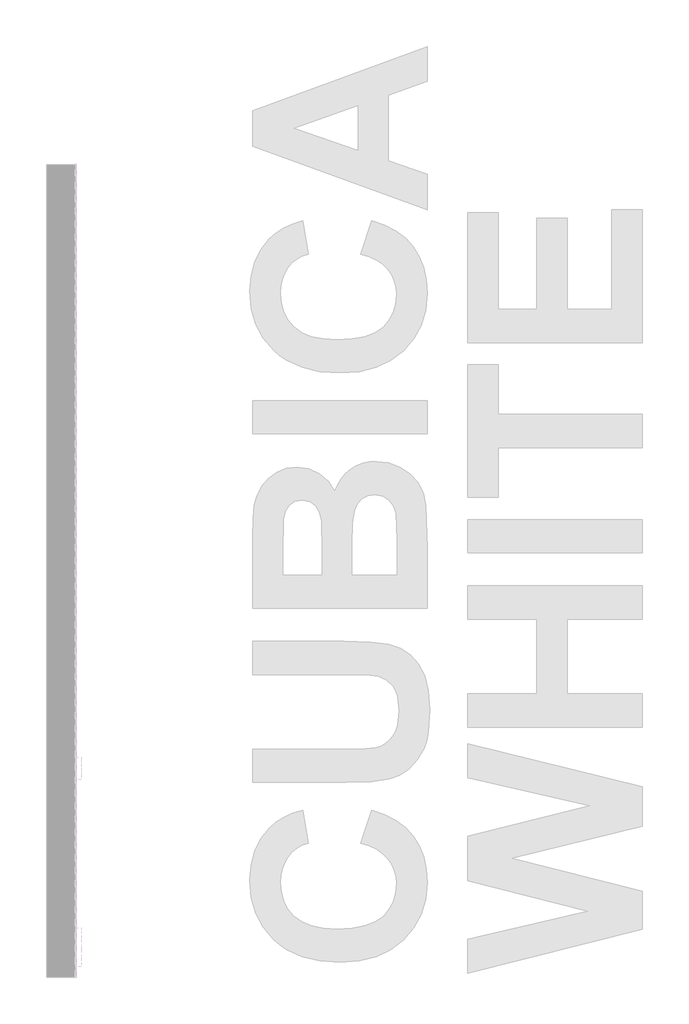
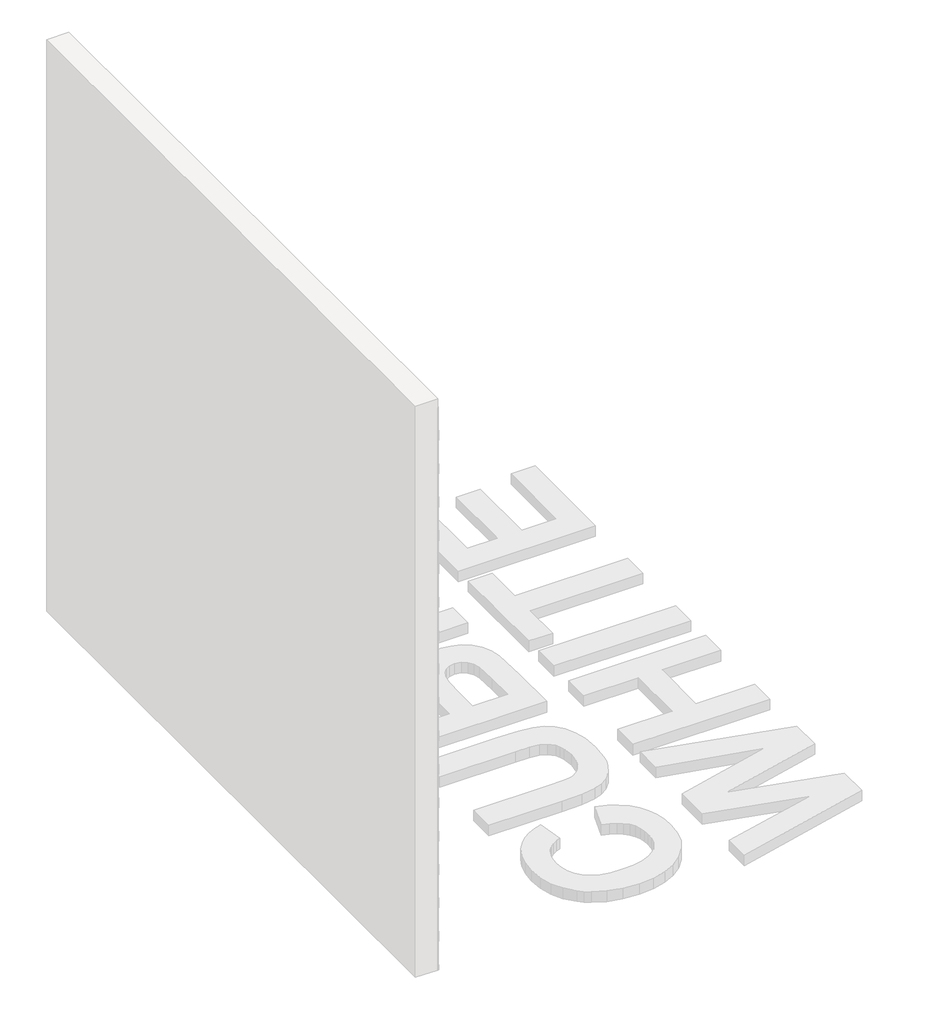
# One storey, part 114 of 121: 145 proxies.
"""IFC4 building model written with IfcOpenShell, lengths in millimetres."""

from ifc_helpers import new_model, si_unit, origin, place, context, project, spatial, transform, mapped, element, save
from components import generic_models_b2b2c5c1, generic_models_9bf73f6f, generic_models_5d175859, generic_models_0bb79e7c

model = new_model("IFC4")

# Units and contexts
model_context = context("Model", 3, world=origin())
ifc_project = project(units=[si_unit("LENGTHUNIT", "METRE", prefix="MILLI")], contexts=[model_context])

# Site, building, storey
site = spatial("IfcSite", under=ifc_project)
building = spatial("IfcBuilding", under=site)
storey = spatial("IfcBuildingStorey", under=building, Name="PORTOBELLO - SHOWROOM", Elevation=0.0)

# Proxies
placement = place(None, origin())
generic_models_shape = generic_models_b2b2c5c1(model_context)
element("IfcBuildingElementProxy", 1, Name="PBSHOP - CUBICA WHITE 4,8X8,3 : CUBICA WHITE - POSIÇÃO 01", ObjectType="PBSHOP - CUBICA WHITE 4,8X8,3 : CUBICA WHITE - POSIÇÃO 01", at=placement, inside=storey, context=model_context, shape_type="MappedRepresentation", body=[
    mapped(generic_models_shape, transform((150369.5341846, 21603.7883805, 276.2260819), x_axis=(0.0, 1.0, 0.0), y_axis=(0.0, 0.0, 1.0), z_axis=(1.0, 0.0, 0.0))),
])
element("IfcBuildingElementProxy", 2, Name="PBSHOP - CUBICA WHITE 4,8X8,3 : CUBICA WHITE - POSIÇÃO 01", ObjectType="PBSHOP - CUBICA WHITE 4,8X8,3 : CUBICA WHITE - POSIÇÃO 01", at=placement, inside=storey, context=model_context, shape_type="MappedRepresentation", body=[
    mapped(generic_models_shape, transform((150369.5341846, 21694.6276498, 276.2260819), x_axis=(0.0, 1.0, 0.0), y_axis=(0.0, 0.0, 1.0), z_axis=(1.0, 0.0, 0.0))),
])
element("IfcBuildingElementProxy", 3, Name="PBSHOP - CUBICA WHITE 4,8X8,3 : CUBICA WHITE - POSIÇÃO 01", ObjectType="PBSHOP - CUBICA WHITE 4,8X8,3 : CUBICA WHITE - POSIÇÃO 01", at=placement, inside=storey, context=model_context, shape_type="MappedRepresentation", body=[
    mapped(generic_models_shape, transform((150369.5341846, 21785.466919, 276.2260819), x_axis=(0.0, 1.0, 0.0), y_axis=(0.0, 0.0, 1.0), z_axis=(1.0, 0.0, 0.0))),
])
element("IfcBuildingElementProxy", 4, Name="PBSHOP - CUBICA WHITE 4,8X8,3 : CUBICA WHITE - POSIÇÃO 01", ObjectType="PBSHOP - CUBICA WHITE 4,8X8,3 : CUBICA WHITE - POSIÇÃO 01", at=placement, inside=storey, context=model_context, shape_type="MappedRepresentation", body=[
    mapped(generic_models_shape, transform((150369.5341846, 21876.3061883, 276.2260819), x_axis=(0.0, 1.0, 0.0), y_axis=(0.0, 0.0, 1.0), z_axis=(1.0, 0.0, 0.0))),
])
element("IfcBuildingElementProxy", 5, Name="PBSHOP - CUBICA WHITE 4,8X8,3 : CUBICA WHITE - POSIÇÃO 01", ObjectType="PBSHOP - CUBICA WHITE 4,8X8,3 : CUBICA WHITE - POSIÇÃO 01", at=placement, inside=storey, context=model_context, shape_type="MappedRepresentation", body=[
    mapped(generic_models_shape, transform((150369.5341846, 21967.1454575, 276.2260819), x_axis=(0.0, 1.0, 0.0), y_axis=(0.0, 0.0, 1.0), z_axis=(1.0, 0.0, 0.0))),
])
element("IfcBuildingElementProxy", 6, Name="PBSHOP - CUBICA WHITE 4,8X8,3 : CUBICA WHITE - POSIÇÃO 01", ObjectType="PBSHOP - CUBICA WHITE 4,8X8,3 : CUBICA WHITE - POSIÇÃO 01", at=placement, inside=storey, context=model_context, shape_type="MappedRepresentation", body=[
    mapped(generic_models_shape, transform((150369.5341846, 21013.3331304, 355.1607203), x_axis=(0.0, 1.0, 0.0), y_axis=(0.0, 0.0, 1.0), z_axis=(1.0, 0.0, 0.0))),
])
element("IfcBuildingElementProxy", 7, Name="PBSHOP - CUBICA WHITE 4,8X8,3 : CUBICA WHITE - POSIÇÃO 01", ObjectType="PBSHOP - CUBICA WHITE 4,8X8,3 : CUBICA WHITE - POSIÇÃO 01", at=placement, inside=storey, context=model_context, shape_type="MappedRepresentation", body=[
    mapped(generic_models_shape, transform((150369.5341846, 21104.1723997, 355.1607203), x_axis=(0.0, 1.0, 0.0), y_axis=(0.0, 0.0, 1.0), z_axis=(1.0, 0.0, 0.0))),
])
element("IfcBuildingElementProxy", 8, Name="PBSHOP - CUBICA WHITE 4,8X8,3 : CUBICA WHITE - POSIÇÃO 01", ObjectType="PBSHOP - CUBICA WHITE 4,8X8,3 : CUBICA WHITE - POSIÇÃO 01", at=placement, inside=storey, context=model_context, shape_type="MappedRepresentation", body=[
    mapped(generic_models_shape, transform((150369.5341846, 21195.0116689, 355.1607203), x_axis=(0.0, 1.0, 0.0), y_axis=(0.0, 0.0, 1.0), z_axis=(1.0, 0.0, 0.0))),
])
element("IfcBuildingElementProxy", 9, Name="PBSHOP - CUBICA WHITE 4,8X8,3 : CUBICA WHITE - POSIÇÃO 01", ObjectType="PBSHOP - CUBICA WHITE 4,8X8,3 : CUBICA WHITE - POSIÇÃO 01", at=placement, inside=storey, context=model_context, shape_type="MappedRepresentation", body=[
    mapped(generic_models_shape, transform((150369.5341846, 21285.8509382, 355.1607203), x_axis=(0.0, 1.0, 0.0), y_axis=(0.0, 0.0, 1.0), z_axis=(1.0, 0.0, 0.0))),
])
element("IfcBuildingElementProxy", 10, Name="PBSHOP - CUBICA WHITE 4,8X8,3 : CUBICA WHITE - POSIÇÃO 01", ObjectType="PBSHOP - CUBICA WHITE 4,8X8,3 : CUBICA WHITE - POSIÇÃO 01", at=placement, inside=storey, context=model_context, shape_type="MappedRepresentation", body=[
    mapped(generic_models_shape, transform((150369.5341846, 21376.6902074, 355.1607203), x_axis=(0.0, 1.0, 0.0), y_axis=(0.0, 0.0, 1.0), z_axis=(1.0, 0.0, 0.0))),
])
element("IfcBuildingElementProxy", 11, Name="PBSHOP - CUBICA WHITE 4,8X8,3 : CUBICA WHITE - POSIÇÃO 01", ObjectType="PBSHOP - CUBICA WHITE 4,8X8,3 : CUBICA WHITE - POSIÇÃO 01", at=placement, inside=storey, context=model_context, shape_type="MappedRepresentation", body=[
    mapped(generic_models_shape, transform((150369.5341846, 21467.5294767, 355.1607203), x_axis=(0.0, 1.0, 0.0), y_axis=(0.0, 0.0, 1.0), z_axis=(1.0, 0.0, 0.0))),
])
element("IfcBuildingElementProxy", 12, Name="PBSHOP - CUBICA WHITE 4,8X8,3 : CUBICA WHITE - POSIÇÃO 01", ObjectType="PBSHOP - CUBICA WHITE 4,8X8,3 : CUBICA WHITE - POSIÇÃO 01", at=placement, inside=storey, context=model_context, shape_type="MappedRepresentation", body=[
    mapped(generic_models_shape, transform((150369.5341846, 21558.3687459, 355.1607203), x_axis=(0.0, 1.0, 0.0), y_axis=(0.0, 0.0, 1.0), z_axis=(1.0, 0.0, 0.0))),
])
element("IfcBuildingElementProxy", 13, Name="PBSHOP - CUBICA WHITE 4,8X8,3 : CUBICA WHITE - POSIÇÃO 01", ObjectType="PBSHOP - CUBICA WHITE 4,8X8,3 : CUBICA WHITE - POSIÇÃO 01", at=placement, inside=storey, context=model_context, shape_type="MappedRepresentation", body=[
    mapped(generic_models_shape, transform((150369.5341846, 21649.2080152, 355.1607203), x_axis=(0.0, 1.0, 0.0), y_axis=(0.0, 0.0, 1.0), z_axis=(1.0, 0.0, 0.0))),
])
element("IfcBuildingElementProxy", 14, Name="PBSHOP - CUBICA WHITE 4,8X8,3 : CUBICA WHITE - POSIÇÃO 01", ObjectType="PBSHOP - CUBICA WHITE 4,8X8,3 : CUBICA WHITE - POSIÇÃO 01", at=placement, inside=storey, context=model_context, shape_type="MappedRepresentation", body=[
    mapped(generic_models_shape, transform((150369.5341846, 21740.0472844, 355.1607203), x_axis=(0.0, 1.0, 0.0), y_axis=(0.0, 0.0, 1.0), z_axis=(1.0, 0.0, 0.0))),
])
element("IfcBuildingElementProxy", 15, Name="PBSHOP - CUBICA WHITE 4,8X8,3 : CUBICA WHITE - POSIÇÃO 01", ObjectType="PBSHOP - CUBICA WHITE 4,8X8,3 : CUBICA WHITE - POSIÇÃO 01", at=placement, inside=storey, context=model_context, shape_type="MappedRepresentation", body=[
    mapped(generic_models_shape, transform((150369.5341846, 21830.8865536, 355.1607203), x_axis=(0.0, 1.0, 0.0), y_axis=(0.0, 0.0, 1.0), z_axis=(1.0, 0.0, 0.0))),
])
element("IfcBuildingElementProxy", 16, Name="PBSHOP - CUBICA WHITE 4,8X8,3 : CUBICA WHITE - POSIÇÃO 01", ObjectType="PBSHOP - CUBICA WHITE 4,8X8,3 : CUBICA WHITE - POSIÇÃO 01", at=placement, inside=storey, context=model_context, shape_type="MappedRepresentation", body=[
    mapped(generic_models_shape, transform((150369.5341846, 21921.7258229, 355.1607203), x_axis=(0.0, 1.0, 0.0), y_axis=(0.0, 0.0, 1.0), z_axis=(1.0, 0.0, 0.0))),
])
element("IfcBuildingElementProxy", 17, Name="PBSHOP - CUBICA WHITE 4,8X8,3 : CUBICA WHITE - POSIÇÃO 01", ObjectType="PBSHOP - CUBICA WHITE 4,8X8,3 : CUBICA WHITE - POSIÇÃO 01", at=placement, inside=storey, context=model_context, shape_type="MappedRepresentation", body=[
    mapped(generic_models_shape, transform((150369.5341846, 21058.7527651, 434.0953587), x_axis=(0.0, 1.0, 0.0), y_axis=(0.0, 0.0, 1.0), z_axis=(1.0, 0.0, 0.0))),
])
element("IfcBuildingElementProxy", 18, Name="PBSHOP - CUBICA WHITE 4,8X8,3 : CUBICA WHITE - POSIÇÃO 01", ObjectType="PBSHOP - CUBICA WHITE 4,8X8,3 : CUBICA WHITE - POSIÇÃO 01", at=placement, inside=storey, context=model_context, shape_type="MappedRepresentation", body=[
    mapped(generic_models_shape, transform((150369.5341846, 21149.5920343, 434.0953587), x_axis=(0.0, 1.0, 0.0), y_axis=(0.0, 0.0, 1.0), z_axis=(1.0, 0.0, 0.0))),
])
element("IfcBuildingElementProxy", 19, Name="PBSHOP - CUBICA WHITE 4,8X8,3 : CUBICA WHITE - POSIÇÃO 01", ObjectType="PBSHOP - CUBICA WHITE 4,8X8,3 : CUBICA WHITE - POSIÇÃO 01", at=placement, inside=storey, context=model_context, shape_type="MappedRepresentation", body=[
    mapped(generic_models_shape, transform((150369.5341846, 21240.4313036, 434.0953587), x_axis=(0.0, 1.0, 0.0), y_axis=(0.0, 0.0, 1.0), z_axis=(1.0, 0.0, 0.0))),
])
element("IfcBuildingElementProxy", 20, Name="PBSHOP - CUBICA WHITE 4,8X8,3 : CUBICA WHITE - POSIÇÃO 01", ObjectType="PBSHOP - CUBICA WHITE 4,8X8,3 : CUBICA WHITE - POSIÇÃO 01", at=placement, inside=storey, context=model_context, shape_type="MappedRepresentation", body=[
    mapped(generic_models_shape, transform((150369.5341846, 21331.2705728, 434.0953587), x_axis=(0.0, 1.0, 0.0), y_axis=(0.0, 0.0, 1.0), z_axis=(1.0, 0.0, 0.0))),
])
element("IfcBuildingElementProxy", 21, Name="PBSHOP - CUBICA WHITE 4,8X8,3 : CUBICA WHITE - POSIÇÃO 01", ObjectType="PBSHOP - CUBICA WHITE 4,8X8,3 : CUBICA WHITE - POSIÇÃO 01", at=placement, inside=storey, context=model_context, shape_type="MappedRepresentation", body=[
    mapped(generic_models_shape, transform((150369.5341846, 21422.109842, 434.0953587), x_axis=(0.0, 1.0, 0.0), y_axis=(0.0, 0.0, 1.0), z_axis=(1.0, 0.0, 0.0))),
])
element("IfcBuildingElementProxy", 22, Name="PBSHOP - CUBICA WHITE 4,8X8,3 : CUBICA WHITE - POSIÇÃO 01", ObjectType="PBSHOP - CUBICA WHITE 4,8X8,3 : CUBICA WHITE - POSIÇÃO 01", at=placement, inside=storey, context=model_context, shape_type="MappedRepresentation", body=[
    mapped(generic_models_shape, transform((150369.5341846, 21512.9491113, 434.0953587), x_axis=(0.0, 1.0, 0.0), y_axis=(0.0, 0.0, 1.0), z_axis=(1.0, 0.0, 0.0))),
])
element("IfcBuildingElementProxy", 23, Name="PBSHOP - CUBICA WHITE 4,8X8,3 : CUBICA WHITE - POSIÇÃO 01", ObjectType="PBSHOP - CUBICA WHITE 4,8X8,3 : CUBICA WHITE - POSIÇÃO 01", at=placement, inside=storey, context=model_context, shape_type="MappedRepresentation", body=[
    mapped(generic_models_shape, transform((150369.5341846, 21603.7883805, 434.0953587), x_axis=(0.0, 1.0, 0.0), y_axis=(0.0, 0.0, 1.0), z_axis=(1.0, 0.0, 0.0))),
])
element("IfcBuildingElementProxy", 24, Name="PBSHOP - CUBICA WHITE 4,8X8,3 : CUBICA WHITE - POSIÇÃO 01", ObjectType="PBSHOP - CUBICA WHITE 4,8X8,3 : CUBICA WHITE - POSIÇÃO 01", at=placement, inside=storey, context=model_context, shape_type="MappedRepresentation", body=[
    mapped(generic_models_shape, transform((150369.5341846, 21694.6276498, 434.0953587), x_axis=(0.0, 1.0, 0.0), y_axis=(0.0, 0.0, 1.0), z_axis=(1.0, 0.0, 0.0))),
])
element("IfcBuildingElementProxy", 25, Name="PBSHOP - CUBICA WHITE 4,8X8,3 : CUBICA WHITE - POSIÇÃO 01", ObjectType="PBSHOP - CUBICA WHITE 4,8X8,3 : CUBICA WHITE - POSIÇÃO 01", at=placement, inside=storey, context=model_context, shape_type="MappedRepresentation", body=[
    mapped(generic_models_shape, transform((150369.5341846, 21785.466919, 434.0953587), x_axis=(0.0, 1.0, 0.0), y_axis=(0.0, 0.0, 1.0), z_axis=(1.0, 0.0, 0.0))),
])
element("IfcBuildingElementProxy", 26, Name="PBSHOP - CUBICA WHITE 4,8X8,3 : CUBICA WHITE - POSIÇÃO 01", ObjectType="PBSHOP - CUBICA WHITE 4,8X8,3 : CUBICA WHITE - POSIÇÃO 01", at=placement, inside=storey, context=model_context, shape_type="MappedRepresentation", body=[
    mapped(generic_models_shape, transform((150369.5341846, 21876.3061883, 434.0953587), x_axis=(0.0, 1.0, 0.0), y_axis=(0.0, 0.0, 1.0), z_axis=(1.0, 0.0, 0.0))),
])
element("IfcBuildingElementProxy", 27, Name="PBSHOP - CUBICA WHITE 4,8X8,3 : CUBICA WHITE - POSIÇÃO 01", ObjectType="PBSHOP - CUBICA WHITE 4,8X8,3 : CUBICA WHITE - POSIÇÃO 01", at=placement, inside=storey, context=model_context, shape_type="MappedRepresentation", body=[
    mapped(generic_models_shape, transform((150369.5341846, 21967.1454575, 434.0953587), x_axis=(0.0, 1.0, 0.0), y_axis=(0.0, 0.0, 1.0), z_axis=(1.0, 0.0, 0.0))),
])
element("IfcBuildingElementProxy", 28, Name="PBSHOP - CUBICA WHITE 4,8X8,3 : CUBICA WHITE - POSIÇÃO 01", ObjectType="PBSHOP - CUBICA WHITE 4,8X8,3 : CUBICA WHITE - POSIÇÃO 01", at=placement, inside=storey, context=model_context, shape_type="MappedRepresentation", body=[
    mapped(generic_models_shape, transform((150369.5341846, 21013.3331304, 513.0299971), x_axis=(0.0, 1.0, 0.0), y_axis=(0.0, 0.0, 1.0), z_axis=(1.0, 0.0, 0.0))),
])
element("IfcBuildingElementProxy", 29, Name="PBSHOP - CUBICA WHITE 4,8X8,3 : CUBICA WHITE - POSIÇÃO 01", ObjectType="PBSHOP - CUBICA WHITE 4,8X8,3 : CUBICA WHITE - POSIÇÃO 01", at=placement, inside=storey, context=model_context, shape_type="MappedRepresentation", body=[
    mapped(generic_models_shape, transform((150369.5341846, 21104.1723997, 513.0299971), x_axis=(0.0, 1.0, 0.0), y_axis=(0.0, 0.0, 1.0), z_axis=(1.0, 0.0, 0.0))),
])
element("IfcBuildingElementProxy", 30, Name="PBSHOP - CUBICA WHITE 4,8X8,3 : CUBICA WHITE - POSIÇÃO 01", ObjectType="PBSHOP - CUBICA WHITE 4,8X8,3 : CUBICA WHITE - POSIÇÃO 01", at=placement, inside=storey, context=model_context, shape_type="MappedRepresentation", body=[
    mapped(generic_models_shape, transform((150369.5341846, 21195.0116689, 513.0299971), x_axis=(0.0, 1.0, 0.0), y_axis=(0.0, 0.0, 1.0), z_axis=(1.0, 0.0, 0.0))),
])
element("IfcBuildingElementProxy", 31, Name="PBSHOP - CUBICA WHITE 4,8X8,3 : CUBICA WHITE - POSIÇÃO 01", ObjectType="PBSHOP - CUBICA WHITE 4,8X8,3 : CUBICA WHITE - POSIÇÃO 01", at=placement, inside=storey, context=model_context, shape_type="MappedRepresentation", body=[
    mapped(generic_models_shape, transform((150369.5341846, 21285.8509382, 513.0299971), x_axis=(0.0, 1.0, 0.0), y_axis=(0.0, 0.0, 1.0), z_axis=(1.0, 0.0, 0.0))),
])
element("IfcBuildingElementProxy", 32, Name="PBSHOP - CUBICA WHITE 4,8X8,3 : CUBICA WHITE - POSIÇÃO 01", ObjectType="PBSHOP - CUBICA WHITE 4,8X8,3 : CUBICA WHITE - POSIÇÃO 01", at=placement, inside=storey, context=model_context, shape_type="MappedRepresentation", body=[
    mapped(generic_models_shape, transform((150369.5341846, 21376.6902074, 513.0299971), x_axis=(0.0, 1.0, 0.0), y_axis=(0.0, 0.0, 1.0), z_axis=(1.0, 0.0, 0.0))),
])
element("IfcBuildingElementProxy", 33, Name="PBSHOP - CUBICA WHITE 4,8X8,3 : CUBICA WHITE - POSIÇÃO 01", ObjectType="PBSHOP - CUBICA WHITE 4,8X8,3 : CUBICA WHITE - POSIÇÃO 01", at=placement, inside=storey, context=model_context, shape_type="MappedRepresentation", body=[
    mapped(generic_models_shape, transform((150369.5341846, 21467.5294767, 513.0299971), x_axis=(0.0, 1.0, 0.0), y_axis=(0.0, 0.0, 1.0), z_axis=(1.0, 0.0, 0.0))),
])
element("IfcBuildingElementProxy", 34, Name="PBSHOP - CUBICA WHITE 4,8X8,3 : CUBICA WHITE - POSIÇÃO 01", ObjectType="PBSHOP - CUBICA WHITE 4,8X8,3 : CUBICA WHITE - POSIÇÃO 01", at=placement, inside=storey, context=model_context, shape_type="MappedRepresentation", body=[
    mapped(generic_models_shape, transform((150369.5341846, 21558.3687459, 513.0299971), x_axis=(0.0, 1.0, 0.0), y_axis=(0.0, 0.0, 1.0), z_axis=(1.0, 0.0, 0.0))),
])
element("IfcBuildingElementProxy", 35, Name="PBSHOP - CUBICA WHITE 4,8X8,3 : CUBICA WHITE - POSIÇÃO 01", ObjectType="PBSHOP - CUBICA WHITE 4,8X8,3 : CUBICA WHITE - POSIÇÃO 01", at=placement, inside=storey, context=model_context, shape_type="MappedRepresentation", body=[
    mapped(generic_models_shape, transform((150369.5341846, 21649.2080152, 513.0299971), x_axis=(0.0, 1.0, 0.0), y_axis=(0.0, 0.0, 1.0), z_axis=(1.0, 0.0, 0.0))),
])
element("IfcBuildingElementProxy", 36, Name="PBSHOP - CUBICA WHITE 4,8X8,3 : CUBICA WHITE - POSIÇÃO 01", ObjectType="PBSHOP - CUBICA WHITE 4,8X8,3 : CUBICA WHITE - POSIÇÃO 01", at=placement, inside=storey, context=model_context, shape_type="MappedRepresentation", body=[
    mapped(generic_models_shape, transform((150369.5341846, 21740.0472844, 513.0299971), x_axis=(0.0, 1.0, 0.0), y_axis=(0.0, 0.0, 1.0), z_axis=(1.0, 0.0, 0.0))),
])
element("IfcBuildingElementProxy", 37, Name="PBSHOP - CUBICA WHITE 4,8X8,3 : CUBICA WHITE - POSIÇÃO 01", ObjectType="PBSHOP - CUBICA WHITE 4,8X8,3 : CUBICA WHITE - POSIÇÃO 01", at=placement, inside=storey, context=model_context, shape_type="MappedRepresentation", body=[
    mapped(generic_models_shape, transform((150369.5341846, 21830.8865536, 513.0299971), x_axis=(0.0, 1.0, 0.0), y_axis=(0.0, 0.0, 1.0), z_axis=(1.0, 0.0, 0.0))),
])
element("IfcBuildingElementProxy", 38, Name="PBSHOP - CUBICA WHITE 4,8X8,3 : CUBICA WHITE - POSIÇÃO 01", ObjectType="PBSHOP - CUBICA WHITE 4,8X8,3 : CUBICA WHITE - POSIÇÃO 01", at=placement, inside=storey, context=model_context, shape_type="MappedRepresentation", body=[
    mapped(generic_models_shape, transform((150369.5341846, 21921.7258229, 513.0299971), x_axis=(0.0, 1.0, 0.0), y_axis=(0.0, 0.0, 1.0), z_axis=(1.0, 0.0, 0.0))),
])
element("IfcBuildingElementProxy", 39, Name="PBSHOP - CUBICA WHITE 4,8X8,3 : CUBICA WHITE - POSIÇÃO 01", ObjectType="PBSHOP - CUBICA WHITE 4,8X8,3 : CUBICA WHITE - POSIÇÃO 01", at=placement, inside=storey, context=model_context, shape_type="MappedRepresentation", body=[
    mapped(generic_models_shape, transform((150369.5341846, 21058.7527651, 591.9646354), x_axis=(0.0, 1.0, 0.0), y_axis=(0.0, 0.0, 1.0), z_axis=(1.0, 0.0, 0.0))),
])
element("IfcBuildingElementProxy", 40, Name="PBSHOP - CUBICA WHITE 4,8X8,3 : CUBICA WHITE - POSIÇÃO 01", ObjectType="PBSHOP - CUBICA WHITE 4,8X8,3 : CUBICA WHITE - POSIÇÃO 01", at=placement, inside=storey, context=model_context, shape_type="MappedRepresentation", body=[
    mapped(generic_models_shape, transform((150369.5341846, 21149.5920343, 591.9646354), x_axis=(0.0, 1.0, 0.0), y_axis=(0.0, 0.0, 1.0), z_axis=(1.0, 0.0, 0.0))),
])
element("IfcBuildingElementProxy", 41, Name="PBSHOP - CUBICA WHITE 4,8X8,3 : CUBICA WHITE - POSIÇÃO 01", ObjectType="PBSHOP - CUBICA WHITE 4,8X8,3 : CUBICA WHITE - POSIÇÃO 01", at=placement, inside=storey, context=model_context, shape_type="MappedRepresentation", body=[
    mapped(generic_models_shape, transform((150369.5341846, 21240.4313036, 591.9646354), x_axis=(0.0, 1.0, 0.0), y_axis=(0.0, 0.0, 1.0), z_axis=(1.0, 0.0, 0.0))),
])
element("IfcBuildingElementProxy", 42, Name="PBSHOP - CUBICA WHITE 4,8X8,3 : CUBICA WHITE - POSIÇÃO 01", ObjectType="PBSHOP - CUBICA WHITE 4,8X8,3 : CUBICA WHITE - POSIÇÃO 01", at=placement, inside=storey, context=model_context, shape_type="MappedRepresentation", body=[
    mapped(generic_models_shape, transform((150369.5341846, 21331.2705728, 591.9646354), x_axis=(0.0, 1.0, 0.0), y_axis=(0.0, 0.0, 1.0), z_axis=(1.0, 0.0, 0.0))),
])
element("IfcBuildingElementProxy", 43, Name="PBSHOP - CUBICA WHITE 4,8X8,3 : CUBICA WHITE - POSIÇÃO 01", ObjectType="PBSHOP - CUBICA WHITE 4,8X8,3 : CUBICA WHITE - POSIÇÃO 01", at=placement, inside=storey, context=model_context, shape_type="MappedRepresentation", body=[
    mapped(generic_models_shape, transform((150369.5341846, 21422.109842, 591.9646354), x_axis=(0.0, 1.0, 0.0), y_axis=(0.0, 0.0, 1.0), z_axis=(1.0, 0.0, 0.0))),
])
element("IfcBuildingElementProxy", 44, Name="PBSHOP - CUBICA WHITE 4,8X8,3 : CUBICA WHITE - POSIÇÃO 01", ObjectType="PBSHOP - CUBICA WHITE 4,8X8,3 : CUBICA WHITE - POSIÇÃO 01", at=placement, inside=storey, context=model_context, shape_type="MappedRepresentation", body=[
    mapped(generic_models_shape, transform((150369.5341846, 21512.9491113, 591.9646354), x_axis=(0.0, 1.0, 0.0), y_axis=(0.0, 0.0, 1.0), z_axis=(1.0, 0.0, 0.0))),
])
element("IfcBuildingElementProxy", 45, Name="PBSHOP - CUBICA WHITE 4,8X8,3 : CUBICA WHITE - POSIÇÃO 01", ObjectType="PBSHOP - CUBICA WHITE 4,8X8,3 : CUBICA WHITE - POSIÇÃO 01", at=placement, inside=storey, context=model_context, shape_type="MappedRepresentation", body=[
    mapped(generic_models_shape, transform((150369.5341846, 21603.7883805, 591.9646354), x_axis=(0.0, 1.0, 0.0), y_axis=(0.0, 0.0, 1.0), z_axis=(1.0, 0.0, 0.0))),
])
element("IfcBuildingElementProxy", 46, Name="PBSHOP - CUBICA WHITE 4,8X8,3 : CUBICA WHITE - POSIÇÃO 01", ObjectType="PBSHOP - CUBICA WHITE 4,8X8,3 : CUBICA WHITE - POSIÇÃO 01", at=placement, inside=storey, context=model_context, shape_type="MappedRepresentation", body=[
    mapped(generic_models_shape, transform((150369.5341846, 21694.6276498, 591.9646354), x_axis=(0.0, 1.0, 0.0), y_axis=(0.0, 0.0, 1.0), z_axis=(1.0, 0.0, 0.0))),
])
element("IfcBuildingElementProxy", 47, Name="PBSHOP - CUBICA WHITE 4,8X8,3 : CUBICA WHITE - POSIÇÃO 01", ObjectType="PBSHOP - CUBICA WHITE 4,8X8,3 : CUBICA WHITE - POSIÇÃO 01", at=placement, inside=storey, context=model_context, shape_type="MappedRepresentation", body=[
    mapped(generic_models_shape, transform((150369.5341846, 21785.466919, 591.9646354), x_axis=(0.0, 1.0, 0.0), y_axis=(0.0, 0.0, 1.0), z_axis=(1.0, 0.0, 0.0))),
])
element("IfcBuildingElementProxy", 48, Name="PBSHOP - CUBICA WHITE 4,8X8,3 : CUBICA WHITE - POSIÇÃO 01", ObjectType="PBSHOP - CUBICA WHITE 4,8X8,3 : CUBICA WHITE - POSIÇÃO 01", at=placement, inside=storey, context=model_context, shape_type="MappedRepresentation", body=[
    mapped(generic_models_shape, transform((150369.5341846, 21876.3061883, 591.9646354), x_axis=(0.0, 1.0, 0.0), y_axis=(0.0, 0.0, 1.0), z_axis=(1.0, 0.0, 0.0))),
])
element("IfcBuildingElementProxy", 49, Name="PBSHOP - CUBICA WHITE 4,8X8,3 : CUBICA WHITE - POSIÇÃO 01", ObjectType="PBSHOP - CUBICA WHITE 4,8X8,3 : CUBICA WHITE - POSIÇÃO 01", at=placement, inside=storey, context=model_context, shape_type="MappedRepresentation", body=[
    mapped(generic_models_shape, transform((150369.5341846, 21967.1454575, 591.9646354), x_axis=(0.0, 1.0, 0.0), y_axis=(0.0, 0.0, 1.0), z_axis=(1.0, 0.0, 0.0))),
])
generic_models_2_shape = generic_models_9bf73f6f(model_context)
element("IfcBuildingElementProxy", 50, Name="PBSHOP - CUBICA WHITE 4,8X8,3 : CUBICA WHITE - POSIÇÃO 03", ObjectType="PBSHOP - CUBICA WHITE 4,8X8,3 : CUBICA WHITE - POSIÇÃO 03", at=placement, inside=storey, context=model_context, shape_type="MappedRepresentation", body=[
    mapped(generic_models_2_shape, transform((150369.5341846, 21036.0451069, 236.7175523), x_axis=(0.0, 1.0, 0.0), y_axis=(0.0, 0.0, 1.0), z_axis=(1.0, 0.0, 0.0))),
])
element("IfcBuildingElementProxy", 51, Name="PBSHOP - CUBICA WHITE 4,8X8,3 : CUBICA WHITE - POSIÇÃO 03", ObjectType="PBSHOP - CUBICA WHITE 4,8X8,3 : CUBICA WHITE - POSIÇÃO 03", at=placement, inside=storey, context=model_context, shape_type="MappedRepresentation", body=[
    mapped(generic_models_2_shape, transform((150369.5341846, 21126.8843762, 236.7175523), x_axis=(0.0, 1.0, 0.0), y_axis=(0.0, 0.0, 1.0), z_axis=(1.0, 0.0, 0.0))),
])
element("IfcBuildingElementProxy", 52, Name="PBSHOP - CUBICA WHITE 4,8X8,3 : CUBICA WHITE - POSIÇÃO 03", ObjectType="PBSHOP - CUBICA WHITE 4,8X8,3 : CUBICA WHITE - POSIÇÃO 03", at=placement, inside=storey, context=model_context, shape_type="MappedRepresentation", body=[
    mapped(generic_models_2_shape, transform((150369.5341846, 21217.7236454, 236.7175523), x_axis=(0.0, 1.0, 0.0), y_axis=(0.0, 0.0, 1.0), z_axis=(1.0, 0.0, 0.0))),
])
element("IfcBuildingElementProxy", 53, Name="PBSHOP - CUBICA WHITE 4,8X8,3 : CUBICA WHITE - POSIÇÃO 03", ObjectType="PBSHOP - CUBICA WHITE 4,8X8,3 : CUBICA WHITE - POSIÇÃO 03", at=placement, inside=storey, context=model_context, shape_type="MappedRepresentation", body=[
    mapped(generic_models_2_shape, transform((150369.5341846, 21308.5629147, 236.7175523), x_axis=(0.0, 1.0, 0.0), y_axis=(0.0, 0.0, 1.0), z_axis=(1.0, 0.0, 0.0))),
])
element("IfcBuildingElementProxy", 54, Name="PBSHOP - CUBICA WHITE 4,8X8,3 : CUBICA WHITE - POSIÇÃO 03", ObjectType="PBSHOP - CUBICA WHITE 4,8X8,3 : CUBICA WHITE - POSIÇÃO 03", at=placement, inside=storey, context=model_context, shape_type="MappedRepresentation", body=[
    mapped(generic_models_2_shape, transform((150369.5341846, 21399.4021839, 236.7175523), x_axis=(0.0, 1.0, 0.0), y_axis=(0.0, 0.0, 1.0), z_axis=(1.0, 0.0, 0.0))),
])
element("IfcBuildingElementProxy", 55, Name="PBSHOP - CUBICA WHITE 4,8X8,3 : CUBICA WHITE - POSIÇÃO 03", ObjectType="PBSHOP - CUBICA WHITE 4,8X8,3 : CUBICA WHITE - POSIÇÃO 03", at=placement, inside=storey, context=model_context, shape_type="MappedRepresentation", body=[
    mapped(generic_models_2_shape, transform((150369.5341846, 21490.2414531, 236.7175523), x_axis=(0.0, 1.0, 0.0), y_axis=(0.0, 0.0, 1.0), z_axis=(1.0, 0.0, 0.0))),
])
element("IfcBuildingElementProxy", 56, Name="PBSHOP - CUBICA WHITE 4,8X8,3 : CUBICA WHITE - POSIÇÃO 03", ObjectType="PBSHOP - CUBICA WHITE 4,8X8,3 : CUBICA WHITE - POSIÇÃO 03", at=placement, inside=storey, context=model_context, shape_type="MappedRepresentation", body=[
    mapped(generic_models_2_shape, transform((150369.5341846, 21581.0807224, 236.7175523), x_axis=(0.0, 1.0, 0.0), y_axis=(0.0, 0.0, 1.0), z_axis=(1.0, 0.0, 0.0))),
])
element("IfcBuildingElementProxy", 57, Name="PBSHOP - CUBICA WHITE 4,8X8,3 : CUBICA WHITE - POSIÇÃO 03", ObjectType="PBSHOP - CUBICA WHITE 4,8X8,3 : CUBICA WHITE - POSIÇÃO 03", at=placement, inside=storey, context=model_context, shape_type="MappedRepresentation", body=[
    mapped(generic_models_2_shape, transform((150369.5341846, 21671.9199916, 236.7175523), x_axis=(0.0, 1.0, 0.0), y_axis=(0.0, 0.0, 1.0), z_axis=(1.0, 0.0, 0.0))),
])
element("IfcBuildingElementProxy", 58, Name="PBSHOP - CUBICA WHITE 4,8X8,3 : CUBICA WHITE - POSIÇÃO 03", ObjectType="PBSHOP - CUBICA WHITE 4,8X8,3 : CUBICA WHITE - POSIÇÃO 03", at=placement, inside=storey, context=model_context, shape_type="MappedRepresentation", body=[
    mapped(generic_models_2_shape, transform((150369.5341846, 21762.7592609, 236.7175523), x_axis=(0.0, 1.0, 0.0), y_axis=(0.0, 0.0, 1.0), z_axis=(1.0, 0.0, 0.0))),
])
element("IfcBuildingElementProxy", 59, Name="PBSHOP - CUBICA WHITE 4,8X8,3 : CUBICA WHITE - POSIÇÃO 03", ObjectType="PBSHOP - CUBICA WHITE 4,8X8,3 : CUBICA WHITE - POSIÇÃO 03", at=placement, inside=storey, context=model_context, shape_type="MappedRepresentation", body=[
    mapped(generic_models_2_shape, transform((150369.5341846, 21853.5985301, 236.7175523), x_axis=(0.0, 1.0, 0.0), y_axis=(0.0, 0.0, 1.0), z_axis=(1.0, 0.0, 0.0))),
])
element("IfcBuildingElementProxy", 60, Name="PBSHOP - CUBICA WHITE 4,8X8,3 : CUBICA WHITE - POSIÇÃO 03", ObjectType="PBSHOP - CUBICA WHITE 4,8X8,3 : CUBICA WHITE - POSIÇÃO 03", at=placement, inside=storey, context=model_context, shape_type="MappedRepresentation", body=[
    mapped(generic_models_2_shape, transform((150369.5341846, 21944.4377994, 236.7175523), x_axis=(0.0, 1.0, 0.0), y_axis=(0.0, 0.0, 1.0), z_axis=(1.0, 0.0, 0.0))),
])
element("IfcBuildingElementProxy", 61, Name="PBSHOP - CUBICA WHITE 4,8X8,3 : CUBICA WHITE - POSIÇÃO 03", ObjectType="PBSHOP - CUBICA WHITE 4,8X8,3 : CUBICA WHITE - POSIÇÃO 03", at=placement, inside=storey, context=model_context, shape_type="MappedRepresentation", body=[
    mapped(generic_models_2_shape, transform((150369.5341846, 21081.4647415, 315.6521907), x_axis=(0.0, 1.0, 0.0), y_axis=(0.0, 0.0, 1.0), z_axis=(1.0, 0.0, 0.0))),
])
element("IfcBuildingElementProxy", 62, Name="PBSHOP - CUBICA WHITE 4,8X8,3 : CUBICA WHITE - POSIÇÃO 03", ObjectType="PBSHOP - CUBICA WHITE 4,8X8,3 : CUBICA WHITE - POSIÇÃO 03", at=placement, inside=storey, context=model_context, shape_type="MappedRepresentation", body=[
    mapped(generic_models_2_shape, transform((150369.5341846, 21172.3040108, 315.6521907), x_axis=(0.0, 1.0, 0.0), y_axis=(0.0, 0.0, 1.0), z_axis=(1.0, 0.0, 0.0))),
])
element("IfcBuildingElementProxy", 63, Name="PBSHOP - CUBICA WHITE 4,8X8,3 : CUBICA WHITE - POSIÇÃO 03", ObjectType="PBSHOP - CUBICA WHITE 4,8X8,3 : CUBICA WHITE - POSIÇÃO 03", at=placement, inside=storey, context=model_context, shape_type="MappedRepresentation", body=[
    mapped(generic_models_2_shape, transform((150369.5341846, 21263.14328, 315.6521907), x_axis=(0.0, 1.0, 0.0), y_axis=(0.0, 0.0, 1.0), z_axis=(1.0, 0.0, 0.0))),
])
element("IfcBuildingElementProxy", 64, Name="PBSHOP - CUBICA WHITE 4,8X8,3 : CUBICA WHITE - POSIÇÃO 03", ObjectType="PBSHOP - CUBICA WHITE 4,8X8,3 : CUBICA WHITE - POSIÇÃO 03", at=placement, inside=storey, context=model_context, shape_type="MappedRepresentation", body=[
    mapped(generic_models_2_shape, transform((150369.5341846, 21353.9825493, 315.6521907), x_axis=(0.0, 1.0, 0.0), y_axis=(0.0, 0.0, 1.0), z_axis=(1.0, 0.0, 0.0))),
])
element("IfcBuildingElementProxy", 65, Name="PBSHOP - CUBICA WHITE 4,8X8,3 : CUBICA WHITE - POSIÇÃO 03", ObjectType="PBSHOP - CUBICA WHITE 4,8X8,3 : CUBICA WHITE - POSIÇÃO 03", at=placement, inside=storey, context=model_context, shape_type="MappedRepresentation", body=[
    mapped(generic_models_2_shape, transform((150369.5341846, 21444.8218185, 315.6521907), x_axis=(0.0, 1.0, 0.0), y_axis=(0.0, 0.0, 1.0), z_axis=(1.0, 0.0, 0.0))),
])
element("IfcBuildingElementProxy", 66, Name="PBSHOP - CUBICA WHITE 4,8X8,3 : CUBICA WHITE - POSIÇÃO 03", ObjectType="PBSHOP - CUBICA WHITE 4,8X8,3 : CUBICA WHITE - POSIÇÃO 03", at=placement, inside=storey, context=model_context, shape_type="MappedRepresentation", body=[
    mapped(generic_models_2_shape, transform((150369.5341846, 21535.6610878, 315.6521907), x_axis=(0.0, 1.0, 0.0), y_axis=(0.0, 0.0, 1.0), z_axis=(1.0, 0.0, 0.0))),
])
element("IfcBuildingElementProxy", 67, Name="PBSHOP - CUBICA WHITE 4,8X8,3 : CUBICA WHITE - POSIÇÃO 03", ObjectType="PBSHOP - CUBICA WHITE 4,8X8,3 : CUBICA WHITE - POSIÇÃO 03", at=placement, inside=storey, context=model_context, shape_type="MappedRepresentation", body=[
    mapped(generic_models_2_shape, transform((150369.5341846, 21626.500357, 315.6521907), x_axis=(0.0, 1.0, 0.0), y_axis=(0.0, 0.0, 1.0), z_axis=(1.0, 0.0, 0.0))),
])
element("IfcBuildingElementProxy", 68, Name="PBSHOP - CUBICA WHITE 4,8X8,3 : CUBICA WHITE - POSIÇÃO 03", ObjectType="PBSHOP - CUBICA WHITE 4,8X8,3 : CUBICA WHITE - POSIÇÃO 03", at=placement, inside=storey, context=model_context, shape_type="MappedRepresentation", body=[
    mapped(generic_models_2_shape, transform((150369.5341846, 21717.3396263, 315.6521907), x_axis=(0.0, 1.0, 0.0), y_axis=(0.0, 0.0, 1.0), z_axis=(1.0, 0.0, 0.0))),
])
element("IfcBuildingElementProxy", 69, Name="PBSHOP - CUBICA WHITE 4,8X8,3 : CUBICA WHITE - POSIÇÃO 03", ObjectType="PBSHOP - CUBICA WHITE 4,8X8,3 : CUBICA WHITE - POSIÇÃO 03", at=placement, inside=storey, context=model_context, shape_type="MappedRepresentation", body=[
    mapped(generic_models_2_shape, transform((150369.5341846, 21808.1788955, 315.6521907), x_axis=(0.0, 1.0, 0.0), y_axis=(0.0, 0.0, 1.0), z_axis=(1.0, 0.0, 0.0))),
])
element("IfcBuildingElementProxy", 70, Name="PBSHOP - CUBICA WHITE 4,8X8,3 : CUBICA WHITE - POSIÇÃO 03", ObjectType="PBSHOP - CUBICA WHITE 4,8X8,3 : CUBICA WHITE - POSIÇÃO 03", at=placement, inside=storey, context=model_context, shape_type="MappedRepresentation", body=[
    mapped(generic_models_2_shape, transform((150369.5341846, 21899.0181647, 315.6521907), x_axis=(0.0, 1.0, 0.0), y_axis=(0.0, 0.0, 1.0), z_axis=(1.0, 0.0, 0.0))),
])
element("IfcBuildingElementProxy", 71, Name="PBSHOP - CUBICA WHITE 4,8X8,3 : CUBICA WHITE - POSIÇÃO 03", ObjectType="PBSHOP - CUBICA WHITE 4,8X8,3 : CUBICA WHITE - POSIÇÃO 03", at=placement, inside=storey, context=model_context, shape_type="MappedRepresentation", body=[
    mapped(generic_models_2_shape, transform((150369.5341846, 21036.0451069, 394.5868291), x_axis=(0.0, 1.0, 0.0), y_axis=(0.0, 0.0, 1.0), z_axis=(1.0, 0.0, 0.0))),
])
element("IfcBuildingElementProxy", 72, Name="PBSHOP - CUBICA WHITE 4,8X8,3 : CUBICA WHITE - POSIÇÃO 03", ObjectType="PBSHOP - CUBICA WHITE 4,8X8,3 : CUBICA WHITE - POSIÇÃO 03", at=placement, inside=storey, context=model_context, shape_type="MappedRepresentation", body=[
    mapped(generic_models_2_shape, transform((150369.5341846, 21126.8843762, 394.5868291), x_axis=(0.0, 1.0, 0.0), y_axis=(0.0, 0.0, 1.0), z_axis=(1.0, 0.0, 0.0))),
])
element("IfcBuildingElementProxy", 73, Name="PBSHOP - CUBICA WHITE 4,8X8,3 : CUBICA WHITE - POSIÇÃO 03", ObjectType="PBSHOP - CUBICA WHITE 4,8X8,3 : CUBICA WHITE - POSIÇÃO 03", at=placement, inside=storey, context=model_context, shape_type="MappedRepresentation", body=[
    mapped(generic_models_2_shape, transform((150369.5341846, 21217.7236454, 394.5868291), x_axis=(0.0, 1.0, 0.0), y_axis=(0.0, 0.0, 1.0), z_axis=(1.0, 0.0, 0.0))),
])
element("IfcBuildingElementProxy", 74, Name="PBSHOP - CUBICA WHITE 4,8X8,3 : CUBICA WHITE - POSIÇÃO 03", ObjectType="PBSHOP - CUBICA WHITE 4,8X8,3 : CUBICA WHITE - POSIÇÃO 03", at=placement, inside=storey, context=model_context, shape_type="MappedRepresentation", body=[
    mapped(generic_models_2_shape, transform((150369.5341846, 21308.5629147, 394.5868291), x_axis=(0.0, 1.0, 0.0), y_axis=(0.0, 0.0, 1.0), z_axis=(1.0, 0.0, 0.0))),
])
element("IfcBuildingElementProxy", 75, Name="PBSHOP - CUBICA WHITE 4,8X8,3 : CUBICA WHITE - POSIÇÃO 03", ObjectType="PBSHOP - CUBICA WHITE 4,8X8,3 : CUBICA WHITE - POSIÇÃO 03", at=placement, inside=storey, context=model_context, shape_type="MappedRepresentation", body=[
    mapped(generic_models_2_shape, transform((150369.5341846, 21399.4021839, 394.5868291), x_axis=(0.0, 1.0, 0.0), y_axis=(0.0, 0.0, 1.0), z_axis=(1.0, 0.0, 0.0))),
])
element("IfcBuildingElementProxy", 76, Name="PBSHOP - CUBICA WHITE 4,8X8,3 : CUBICA WHITE - POSIÇÃO 03", ObjectType="PBSHOP - CUBICA WHITE 4,8X8,3 : CUBICA WHITE - POSIÇÃO 03", at=placement, inside=storey, context=model_context, shape_type="MappedRepresentation", body=[
    mapped(generic_models_2_shape, transform((150369.5341846, 21490.2414531, 394.5868291), x_axis=(0.0, 1.0, 0.0), y_axis=(0.0, 0.0, 1.0), z_axis=(1.0, 0.0, 0.0))),
])
element("IfcBuildingElementProxy", 77, Name="PBSHOP - CUBICA WHITE 4,8X8,3 : CUBICA WHITE - POSIÇÃO 03", ObjectType="PBSHOP - CUBICA WHITE 4,8X8,3 : CUBICA WHITE - POSIÇÃO 03", at=placement, inside=storey, context=model_context, shape_type="MappedRepresentation", body=[
    mapped(generic_models_2_shape, transform((150369.5341846, 21581.0807224, 394.5868291), x_axis=(0.0, 1.0, 0.0), y_axis=(0.0, 0.0, 1.0), z_axis=(1.0, 0.0, 0.0))),
])
element("IfcBuildingElementProxy", 78, Name="PBSHOP - CUBICA WHITE 4,8X8,3 : CUBICA WHITE - POSIÇÃO 03", ObjectType="PBSHOP - CUBICA WHITE 4,8X8,3 : CUBICA WHITE - POSIÇÃO 03", at=placement, inside=storey, context=model_context, shape_type="MappedRepresentation", body=[
    mapped(generic_models_2_shape, transform((150369.5341846, 21671.9199916, 394.5868291), x_axis=(0.0, 1.0, 0.0), y_axis=(0.0, 0.0, 1.0), z_axis=(1.0, 0.0, 0.0))),
])
element("IfcBuildingElementProxy", 79, Name="PBSHOP - CUBICA WHITE 4,8X8,3 : CUBICA WHITE - POSIÇÃO 03", ObjectType="PBSHOP - CUBICA WHITE 4,8X8,3 : CUBICA WHITE - POSIÇÃO 03", at=placement, inside=storey, context=model_context, shape_type="MappedRepresentation", body=[
    mapped(generic_models_2_shape, transform((150369.5341846, 21762.7592609, 394.5868291), x_axis=(0.0, 1.0, 0.0), y_axis=(0.0, 0.0, 1.0), z_axis=(1.0, 0.0, 0.0))),
])
element("IfcBuildingElementProxy", 80, Name="PBSHOP - CUBICA WHITE 4,8X8,3 : CUBICA WHITE - POSIÇÃO 03", ObjectType="PBSHOP - CUBICA WHITE 4,8X8,3 : CUBICA WHITE - POSIÇÃO 03", at=placement, inside=storey, context=model_context, shape_type="MappedRepresentation", body=[
    mapped(generic_models_2_shape, transform((150369.5341846, 21853.5985301, 394.5868291), x_axis=(0.0, 1.0, 0.0), y_axis=(0.0, 0.0, 1.0), z_axis=(1.0, 0.0, 0.0))),
])
element("IfcBuildingElementProxy", 81, Name="PBSHOP - CUBICA WHITE 4,8X8,3 : CUBICA WHITE - POSIÇÃO 03", ObjectType="PBSHOP - CUBICA WHITE 4,8X8,3 : CUBICA WHITE - POSIÇÃO 03", at=placement, inside=storey, context=model_context, shape_type="MappedRepresentation", body=[
    mapped(generic_models_2_shape, transform((150369.5341846, 21944.4377994, 394.5868291), x_axis=(0.0, 1.0, 0.0), y_axis=(0.0, 0.0, 1.0), z_axis=(1.0, 0.0, 0.0))),
])
element("IfcBuildingElementProxy", 82, Name="PBSHOP - CUBICA WHITE 4,8X8,3 : CUBICA WHITE - POSIÇÃO 03", ObjectType="PBSHOP - CUBICA WHITE 4,8X8,3 : CUBICA WHITE - POSIÇÃO 03", at=placement, inside=storey, context=model_context, shape_type="MappedRepresentation", body=[
    mapped(generic_models_2_shape, transform((150369.5341846, 21081.4647415, 473.5214674), x_axis=(0.0, 1.0, 0.0), y_axis=(0.0, 0.0, 1.0), z_axis=(1.0, 0.0, 0.0))),
])
element("IfcBuildingElementProxy", 83, Name="PBSHOP - CUBICA WHITE 4,8X8,3 : CUBICA WHITE - POSIÇÃO 03", ObjectType="PBSHOP - CUBICA WHITE 4,8X8,3 : CUBICA WHITE - POSIÇÃO 03", at=placement, inside=storey, context=model_context, shape_type="MappedRepresentation", body=[
    mapped(generic_models_2_shape, transform((150369.5341846, 21172.3040108, 473.5214674), x_axis=(0.0, 1.0, 0.0), y_axis=(0.0, 0.0, 1.0), z_axis=(1.0, 0.0, 0.0))),
])
element("IfcBuildingElementProxy", 84, Name="PBSHOP - CUBICA WHITE 4,8X8,3 : CUBICA WHITE - POSIÇÃO 03", ObjectType="PBSHOP - CUBICA WHITE 4,8X8,3 : CUBICA WHITE - POSIÇÃO 03", at=placement, inside=storey, context=model_context, shape_type="MappedRepresentation", body=[
    mapped(generic_models_2_shape, transform((150369.5341846, 21263.14328, 473.5214674), x_axis=(0.0, 1.0, 0.0), y_axis=(0.0, 0.0, 1.0), z_axis=(1.0, 0.0, 0.0))),
])
element("IfcBuildingElementProxy", 85, Name="PBSHOP - CUBICA WHITE 4,8X8,3 : CUBICA WHITE - POSIÇÃO 03", ObjectType="PBSHOP - CUBICA WHITE 4,8X8,3 : CUBICA WHITE - POSIÇÃO 03", at=placement, inside=storey, context=model_context, shape_type="MappedRepresentation", body=[
    mapped(generic_models_2_shape, transform((150369.5341846, 21353.9825493, 473.5214674), x_axis=(0.0, 1.0, 0.0), y_axis=(0.0, 0.0, 1.0), z_axis=(1.0, 0.0, 0.0))),
])
element("IfcBuildingElementProxy", 86, Name="PBSHOP - CUBICA WHITE 4,8X8,3 : CUBICA WHITE - POSIÇÃO 03", ObjectType="PBSHOP - CUBICA WHITE 4,8X8,3 : CUBICA WHITE - POSIÇÃO 03", at=placement, inside=storey, context=model_context, shape_type="MappedRepresentation", body=[
    mapped(generic_models_2_shape, transform((150369.5341846, 21444.8218185, 473.5214674), x_axis=(0.0, 1.0, 0.0), y_axis=(0.0, 0.0, 1.0), z_axis=(1.0, 0.0, 0.0))),
])
element("IfcBuildingElementProxy", 87, Name="PBSHOP - CUBICA WHITE 4,8X8,3 : CUBICA WHITE - POSIÇÃO 03", ObjectType="PBSHOP - CUBICA WHITE 4,8X8,3 : CUBICA WHITE - POSIÇÃO 03", at=placement, inside=storey, context=model_context, shape_type="MappedRepresentation", body=[
    mapped(generic_models_2_shape, transform((150369.5341846, 21535.6610878, 473.5214674), x_axis=(0.0, 1.0, 0.0), y_axis=(0.0, 0.0, 1.0), z_axis=(1.0, 0.0, 0.0))),
])
element("IfcBuildingElementProxy", 88, Name="PBSHOP - CUBICA WHITE 4,8X8,3 : CUBICA WHITE - POSIÇÃO 03", ObjectType="PBSHOP - CUBICA WHITE 4,8X8,3 : CUBICA WHITE - POSIÇÃO 03", at=placement, inside=storey, context=model_context, shape_type="MappedRepresentation", body=[
    mapped(generic_models_2_shape, transform((150369.5341846, 21626.500357, 473.5214674), x_axis=(0.0, 1.0, 0.0), y_axis=(0.0, 0.0, 1.0), z_axis=(1.0, 0.0, 0.0))),
])
element("IfcBuildingElementProxy", 89, Name="PBSHOP - CUBICA WHITE 4,8X8,3 : CUBICA WHITE - POSIÇÃO 03", ObjectType="PBSHOP - CUBICA WHITE 4,8X8,3 : CUBICA WHITE - POSIÇÃO 03", at=placement, inside=storey, context=model_context, shape_type="MappedRepresentation", body=[
    mapped(generic_models_2_shape, transform((150369.5341846, 21717.3396263, 473.5214674), x_axis=(0.0, 1.0, 0.0), y_axis=(0.0, 0.0, 1.0), z_axis=(1.0, 0.0, 0.0))),
])
element("IfcBuildingElementProxy", 90, Name="PBSHOP - CUBICA WHITE 4,8X8,3 : CUBICA WHITE - POSIÇÃO 03", ObjectType="PBSHOP - CUBICA WHITE 4,8X8,3 : CUBICA WHITE - POSIÇÃO 03", at=placement, inside=storey, context=model_context, shape_type="MappedRepresentation", body=[
    mapped(generic_models_2_shape, transform((150369.5341846, 21808.1788955, 473.5214674), x_axis=(0.0, 1.0, 0.0), y_axis=(0.0, 0.0, 1.0), z_axis=(1.0, 0.0, 0.0))),
])
element("IfcBuildingElementProxy", 91, Name="PBSHOP - CUBICA WHITE 4,8X8,3 : CUBICA WHITE - POSIÇÃO 03", ObjectType="PBSHOP - CUBICA WHITE 4,8X8,3 : CUBICA WHITE - POSIÇÃO 03", at=placement, inside=storey, context=model_context, shape_type="MappedRepresentation", body=[
    mapped(generic_models_2_shape, transform((150369.5341846, 21899.0181647, 473.5214674), x_axis=(0.0, 1.0, 0.0), y_axis=(0.0, 0.0, 1.0), z_axis=(1.0, 0.0, 0.0))),
])
element("IfcBuildingElementProxy", 92, Name="PBSHOP - CUBICA WHITE 4,8X8,3 : CUBICA WHITE - POSIÇÃO 03", ObjectType="PBSHOP - CUBICA WHITE 4,8X8,3 : CUBICA WHITE - POSIÇÃO 03", at=placement, inside=storey, context=model_context, shape_type="MappedRepresentation", body=[
    mapped(generic_models_2_shape, transform((150369.5341846, 21036.0451069, 552.4561058), x_axis=(0.0, 1.0, 0.0), y_axis=(0.0, 0.0, 1.0), z_axis=(1.0, 0.0, 0.0))),
])
element("IfcBuildingElementProxy", 93, Name="PBSHOP - CUBICA WHITE 4,8X8,3 : CUBICA WHITE - POSIÇÃO 03", ObjectType="PBSHOP - CUBICA WHITE 4,8X8,3 : CUBICA WHITE - POSIÇÃO 03", at=placement, inside=storey, context=model_context, shape_type="MappedRepresentation", body=[
    mapped(generic_models_2_shape, transform((150369.5341846, 21126.8843762, 552.4561058), x_axis=(0.0, 1.0, 0.0), y_axis=(0.0, 0.0, 1.0), z_axis=(1.0, 0.0, 0.0))),
])
element("IfcBuildingElementProxy", 94, Name="PBSHOP - CUBICA WHITE 4,8X8,3 : CUBICA WHITE - POSIÇÃO 03", ObjectType="PBSHOP - CUBICA WHITE 4,8X8,3 : CUBICA WHITE - POSIÇÃO 03", at=placement, inside=storey, context=model_context, shape_type="MappedRepresentation", body=[
    mapped(generic_models_2_shape, transform((150369.5341846, 21217.7236454, 552.4561058), x_axis=(0.0, 1.0, 0.0), y_axis=(0.0, 0.0, 1.0), z_axis=(1.0, 0.0, 0.0))),
])
generic_models_3_shape = generic_models_5d175859(model_context)
element("IfcBuildingElementProxy", 95, Name="PBSHOP - CUBICA WHITE 4,8X8,3 : CUBICA WHITE - POSIÇÃO 01", ObjectType="PBSHOP - CUBICA WHITE 4,8X8,3 : CUBICA WHITE - POSIÇÃO 01", at=placement, inside=storey, context=model_context, shape_type="MappedRepresentation", body=[
    mapped(generic_models_3_shape, transform((150369.5341846, 21558.3730642, 276.2260819), x_axis=(0.0, -1.0, 0.0), y_axis=(0.0, 0.0, -1.0), z_axis=(1.0, 0.0, 0.0))),
])
element("IfcBuildingElementProxy", 96, Name="PBSHOP - CUBICA WHITE 4,8X8,3 : CUBICA WHITE - POSIÇÃO 01", ObjectType="PBSHOP - CUBICA WHITE 4,8X8,3 : CUBICA WHITE - POSIÇÃO 01", at=placement, inside=storey, context=model_context, shape_type="MappedRepresentation", body=[
    mapped(generic_models_3_shape, transform((150369.5341846, 21649.2123335, 276.2260819), x_axis=(0.0, -1.0, 0.0), y_axis=(0.0, 0.0, -1.0), z_axis=(1.0, 0.0, 0.0))),
])
element("IfcBuildingElementProxy", 97, Name="PBSHOP - CUBICA WHITE 4,8X8,3 : CUBICA WHITE - POSIÇÃO 01", ObjectType="PBSHOP - CUBICA WHITE 4,8X8,3 : CUBICA WHITE - POSIÇÃO 01", at=placement, inside=storey, context=model_context, shape_type="MappedRepresentation", body=[
    mapped(generic_models_3_shape, transform((150369.5341846, 21740.0516027, 276.2260819), x_axis=(0.0, -1.0, 0.0), y_axis=(0.0, 0.0, -1.0), z_axis=(1.0, 0.0, 0.0))),
])
element("IfcBuildingElementProxy", 98, Name="PBSHOP - CUBICA WHITE 4,8X8,3 : CUBICA WHITE - POSIÇÃO 01", ObjectType="PBSHOP - CUBICA WHITE 4,8X8,3 : CUBICA WHITE - POSIÇÃO 01", at=placement, inside=storey, context=model_context, shape_type="MappedRepresentation", body=[
    mapped(generic_models_3_shape, transform((150369.5341846, 21830.890872, 276.2260819), x_axis=(0.0, -1.0, 0.0), y_axis=(0.0, 0.0, -1.0), z_axis=(1.0, 0.0, 0.0))),
])
element("IfcBuildingElementProxy", 99, Name="PBSHOP - CUBICA WHITE 4,8X8,3 : CUBICA WHITE - POSIÇÃO 01", ObjectType="PBSHOP - CUBICA WHITE 4,8X8,3 : CUBICA WHITE - POSIÇÃO 01", at=placement, inside=storey, context=model_context, shape_type="MappedRepresentation", body=[
    mapped(generic_models_3_shape, transform((150369.5341846, 21921.7301412, 276.2260819), x_axis=(0.0, -1.0, 0.0), y_axis=(0.0, 0.0, -1.0), z_axis=(1.0, 0.0, 0.0))),
])
element("IfcBuildingElementProxy", 100, Name="PBSHOP - CUBICA WHITE 4,8X8,3 : CUBICA WHITE - POSIÇÃO 01", ObjectType="PBSHOP - CUBICA WHITE 4,8X8,3 : CUBICA WHITE - POSIÇÃO 01", at=placement, inside=storey, context=model_context, shape_type="MappedRepresentation", body=[
    mapped(generic_models_3_shape, transform((150369.5341846, 21058.7570834, 355.1607203), x_axis=(0.0, -1.0, 0.0), y_axis=(0.0, 0.0, -1.0), z_axis=(1.0, 0.0, 0.0))),
])
element("IfcBuildingElementProxy", 101, Name="PBSHOP - CUBICA WHITE 4,8X8,3 : CUBICA WHITE - POSIÇÃO 01", ObjectType="PBSHOP - CUBICA WHITE 4,8X8,3 : CUBICA WHITE - POSIÇÃO 01", at=placement, inside=storey, context=model_context, shape_type="MappedRepresentation", body=[
    mapped(generic_models_3_shape, transform((150369.5341846, 21149.5963526, 355.1607203), x_axis=(0.0, -1.0, 0.0), y_axis=(0.0, 0.0, -1.0), z_axis=(1.0, 0.0, 0.0))),
])
element("IfcBuildingElementProxy", 102, Name="PBSHOP - CUBICA WHITE 4,8X8,3 : CUBICA WHITE - POSIÇÃO 01", ObjectType="PBSHOP - CUBICA WHITE 4,8X8,3 : CUBICA WHITE - POSIÇÃO 01", at=placement, inside=storey, context=model_context, shape_type="MappedRepresentation", body=[
    mapped(generic_models_3_shape, transform((150369.5341846, 21240.4356219, 355.1607203), x_axis=(0.0, -1.0, 0.0), y_axis=(0.0, 0.0, -1.0), z_axis=(1.0, 0.0, 0.0))),
])
element("IfcBuildingElementProxy", 103, Name="PBSHOP - CUBICA WHITE 4,8X8,3 : CUBICA WHITE - POSIÇÃO 01", ObjectType="PBSHOP - CUBICA WHITE 4,8X8,3 : CUBICA WHITE - POSIÇÃO 01", at=placement, inside=storey, context=model_context, shape_type="MappedRepresentation", body=[
    mapped(generic_models_3_shape, transform((150369.5341846, 21331.2748911, 355.1607203), x_axis=(0.0, -1.0, 0.0), y_axis=(0.0, 0.0, -1.0), z_axis=(1.0, 0.0, 0.0))),
])
element("IfcBuildingElementProxy", 104, Name="PBSHOP - CUBICA WHITE 4,8X8,3 : CUBICA WHITE - POSIÇÃO 01", ObjectType="PBSHOP - CUBICA WHITE 4,8X8,3 : CUBICA WHITE - POSIÇÃO 01", at=placement, inside=storey, context=model_context, shape_type="MappedRepresentation", body=[
    mapped(generic_models_3_shape, transform((150369.5341846, 21422.1141604, 355.1607203), x_axis=(0.0, -1.0, 0.0), y_axis=(0.0, 0.0, -1.0), z_axis=(1.0, 0.0, 0.0))),
])
element("IfcBuildingElementProxy", 105, Name="PBSHOP - CUBICA WHITE 4,8X8,3 : CUBICA WHITE - POSIÇÃO 01", ObjectType="PBSHOP - CUBICA WHITE 4,8X8,3 : CUBICA WHITE - POSIÇÃO 01", at=placement, inside=storey, context=model_context, shape_type="MappedRepresentation", body=[
    mapped(generic_models_3_shape, transform((150369.5341846, 21512.9534296, 355.1607203), x_axis=(0.0, -1.0, 0.0), y_axis=(0.0, 0.0, -1.0), z_axis=(1.0, 0.0, 0.0))),
])
element("IfcBuildingElementProxy", 106, Name="PBSHOP - CUBICA WHITE 4,8X8,3 : CUBICA WHITE - POSIÇÃO 01", ObjectType="PBSHOP - CUBICA WHITE 4,8X8,3 : CUBICA WHITE - POSIÇÃO 01", at=placement, inside=storey, context=model_context, shape_type="MappedRepresentation", body=[
    mapped(generic_models_3_shape, transform((150369.5341846, 21603.7926989, 355.1607203), x_axis=(0.0, -1.0, 0.0), y_axis=(0.0, 0.0, -1.0), z_axis=(1.0, 0.0, 0.0))),
])
element("IfcBuildingElementProxy", 107, Name="PBSHOP - CUBICA WHITE 4,8X8,3 : CUBICA WHITE - POSIÇÃO 01", ObjectType="PBSHOP - CUBICA WHITE 4,8X8,3 : CUBICA WHITE - POSIÇÃO 01", at=placement, inside=storey, context=model_context, shape_type="MappedRepresentation", body=[
    mapped(generic_models_3_shape, transform((150369.5341846, 21694.6319681, 355.1607203), x_axis=(0.0, -1.0, 0.0), y_axis=(0.0, 0.0, -1.0), z_axis=(1.0, 0.0, 0.0))),
])
element("IfcBuildingElementProxy", 108, Name="PBSHOP - CUBICA WHITE 4,8X8,3 : CUBICA WHITE - POSIÇÃO 01", ObjectType="PBSHOP - CUBICA WHITE 4,8X8,3 : CUBICA WHITE - POSIÇÃO 01", at=placement, inside=storey, context=model_context, shape_type="MappedRepresentation", body=[
    mapped(generic_models_3_shape, transform((150369.5341846, 21785.4712374, 355.1607203), x_axis=(0.0, -1.0, 0.0), y_axis=(0.0, 0.0, -1.0), z_axis=(1.0, 0.0, 0.0))),
])
element("IfcBuildingElementProxy", 109, Name="PBSHOP - CUBICA WHITE 4,8X8,3 : CUBICA WHITE - POSIÇÃO 01", ObjectType="PBSHOP - CUBICA WHITE 4,8X8,3 : CUBICA WHITE - POSIÇÃO 01", at=placement, inside=storey, context=model_context, shape_type="MappedRepresentation", body=[
    mapped(generic_models_3_shape, transform((150369.5341846, 21876.3105066, 355.1607203), x_axis=(0.0, -1.0, 0.0), y_axis=(0.0, 0.0, -1.0), z_axis=(1.0, 0.0, 0.0))),
])
element("IfcBuildingElementProxy", 110, Name="PBSHOP - CUBICA WHITE 4,8X8,3 : CUBICA WHITE - POSIÇÃO 01", ObjectType="PBSHOP - CUBICA WHITE 4,8X8,3 : CUBICA WHITE - POSIÇÃO 01", at=placement, inside=storey, context=model_context, shape_type="MappedRepresentation", body=[
    mapped(generic_models_3_shape, transform((150369.5341846, 21967.1497758, 355.1607203), x_axis=(0.0, -1.0, 0.0), y_axis=(0.0, 0.0, -1.0), z_axis=(1.0, 0.0, 0.0))),
])
element("IfcBuildingElementProxy", 111, Name="PBSHOP - CUBICA WHITE 4,8X8,3 : CUBICA WHITE - POSIÇÃO 01", ObjectType="PBSHOP - CUBICA WHITE 4,8X8,3 : CUBICA WHITE - POSIÇÃO 01", at=placement, inside=storey, context=model_context, shape_type="MappedRepresentation", body=[
    mapped(generic_models_3_shape, transform((150369.5341846, 21013.3374488, 434.0953587), x_axis=(0.0, -1.0, 0.0), y_axis=(0.0, 0.0, -1.0), z_axis=(1.0, 0.0, 0.0))),
])
element("IfcBuildingElementProxy", 112, Name="PBSHOP - CUBICA WHITE 4,8X8,3 : CUBICA WHITE - POSIÇÃO 01", ObjectType="PBSHOP - CUBICA WHITE 4,8X8,3 : CUBICA WHITE - POSIÇÃO 01", at=placement, inside=storey, context=model_context, shape_type="MappedRepresentation", body=[
    mapped(generic_models_3_shape, transform((150369.5341846, 21104.176718, 434.0953587), x_axis=(0.0, -1.0, 0.0), y_axis=(0.0, 0.0, -1.0), z_axis=(1.0, 0.0, 0.0))),
])
element("IfcBuildingElementProxy", 113, Name="PBSHOP - CUBICA WHITE 4,8X8,3 : CUBICA WHITE - POSIÇÃO 01", ObjectType="PBSHOP - CUBICA WHITE 4,8X8,3 : CUBICA WHITE - POSIÇÃO 01", at=placement, inside=storey, context=model_context, shape_type="MappedRepresentation", body=[
    mapped(generic_models_3_shape, transform((150369.5341846, 21195.0159873, 434.0953587), x_axis=(0.0, -1.0, 0.0), y_axis=(0.0, 0.0, -1.0), z_axis=(1.0, 0.0, 0.0))),
])
element("IfcBuildingElementProxy", 114, Name="PBSHOP - CUBICA WHITE 4,8X8,3 : CUBICA WHITE - POSIÇÃO 01", ObjectType="PBSHOP - CUBICA WHITE 4,8X8,3 : CUBICA WHITE - POSIÇÃO 01", at=placement, inside=storey, context=model_context, shape_type="MappedRepresentation", body=[
    mapped(generic_models_3_shape, transform((150369.5341846, 21285.8552565, 434.0953587), x_axis=(0.0, -1.0, 0.0), y_axis=(0.0, 0.0, -1.0), z_axis=(1.0, 0.0, 0.0))),
])
element("IfcBuildingElementProxy", 115, Name="PBSHOP - CUBICA WHITE 4,8X8,3 : CUBICA WHITE - POSIÇÃO 01", ObjectType="PBSHOP - CUBICA WHITE 4,8X8,3 : CUBICA WHITE - POSIÇÃO 01", at=placement, inside=storey, context=model_context, shape_type="MappedRepresentation", body=[
    mapped(generic_models_3_shape, transform((150369.5341846, 21376.6945258, 434.0953587), x_axis=(0.0, -1.0, 0.0), y_axis=(0.0, 0.0, -1.0), z_axis=(1.0, 0.0, 0.0))),
])
element("IfcBuildingElementProxy", 116, Name="PBSHOP - CUBICA WHITE 4,8X8,3 : CUBICA WHITE - POSIÇÃO 01", ObjectType="PBSHOP - CUBICA WHITE 4,8X8,3 : CUBICA WHITE - POSIÇÃO 01", at=placement, inside=storey, context=model_context, shape_type="MappedRepresentation", body=[
    mapped(generic_models_3_shape, transform((150369.5341846, 21467.533795, 434.0953587), x_axis=(0.0, -1.0, 0.0), y_axis=(0.0, 0.0, -1.0), z_axis=(1.0, 0.0, 0.0))),
])
element("IfcBuildingElementProxy", 117, Name="PBSHOP - CUBICA WHITE 4,8X8,3 : CUBICA WHITE - POSIÇÃO 01", ObjectType="PBSHOP - CUBICA WHITE 4,8X8,3 : CUBICA WHITE - POSIÇÃO 01", at=placement, inside=storey, context=model_context, shape_type="MappedRepresentation", body=[
    mapped(generic_models_3_shape, transform((150369.5341846, 21558.3730642, 434.0953587), x_axis=(0.0, -1.0, 0.0), y_axis=(0.0, 0.0, -1.0), z_axis=(1.0, 0.0, 0.0))),
])
element("IfcBuildingElementProxy", 118, Name="PBSHOP - CUBICA WHITE 4,8X8,3 : CUBICA WHITE - POSIÇÃO 01", ObjectType="PBSHOP - CUBICA WHITE 4,8X8,3 : CUBICA WHITE - POSIÇÃO 01", at=placement, inside=storey, context=model_context, shape_type="MappedRepresentation", body=[
    mapped(generic_models_3_shape, transform((150369.5341846, 21649.2123335, 434.0953587), x_axis=(0.0, -1.0, 0.0), y_axis=(0.0, 0.0, -1.0), z_axis=(1.0, 0.0, 0.0))),
])
element("IfcBuildingElementProxy", 119, Name="PBSHOP - CUBICA WHITE 4,8X8,3 : CUBICA WHITE - POSIÇÃO 01", ObjectType="PBSHOP - CUBICA WHITE 4,8X8,3 : CUBICA WHITE - POSIÇÃO 01", at=placement, inside=storey, context=model_context, shape_type="MappedRepresentation", body=[
    mapped(generic_models_3_shape, transform((150369.5341846, 21740.0516027, 434.0953587), x_axis=(0.0, -1.0, 0.0), y_axis=(0.0, 0.0, -1.0), z_axis=(1.0, 0.0, 0.0))),
])
element("IfcBuildingElementProxy", 120, Name="PBSHOP - CUBICA WHITE 4,8X8,3 : CUBICA WHITE - POSIÇÃO 01", ObjectType="PBSHOP - CUBICA WHITE 4,8X8,3 : CUBICA WHITE - POSIÇÃO 01", at=placement, inside=storey, context=model_context, shape_type="MappedRepresentation", body=[
    mapped(generic_models_3_shape, transform((150369.5341846, 21830.890872, 434.0953587), x_axis=(0.0, -1.0, 0.0), y_axis=(0.0, 0.0, -1.0), z_axis=(1.0, 0.0, 0.0))),
])
element("IfcBuildingElementProxy", 121, Name="PBSHOP - CUBICA WHITE 4,8X8,3 : CUBICA WHITE - POSIÇÃO 01", ObjectType="PBSHOP - CUBICA WHITE 4,8X8,3 : CUBICA WHITE - POSIÇÃO 01", at=placement, inside=storey, context=model_context, shape_type="MappedRepresentation", body=[
    mapped(generic_models_3_shape, transform((150369.5341846, 21921.7301412, 434.0953587), x_axis=(0.0, -1.0, 0.0), y_axis=(0.0, 0.0, -1.0), z_axis=(1.0, 0.0, 0.0))),
])
element("IfcBuildingElementProxy", 122, Name="PBSHOP - CUBICA WHITE 4,8X8,3 : CUBICA WHITE - POSIÇÃO 01", ObjectType="PBSHOP - CUBICA WHITE 4,8X8,3 : CUBICA WHITE - POSIÇÃO 01", at=placement, inside=storey, context=model_context, shape_type="MappedRepresentation", body=[
    mapped(generic_models_3_shape, transform((150369.5341846, 21058.7570834, 513.0299971), x_axis=(0.0, -1.0, 0.0), y_axis=(0.0, 0.0, -1.0), z_axis=(1.0, 0.0, 0.0))),
])
element("IfcBuildingElementProxy", 123, Name="PBSHOP - CUBICA WHITE 4,8X8,3 : CUBICA WHITE - POSIÇÃO 01", ObjectType="PBSHOP - CUBICA WHITE 4,8X8,3 : CUBICA WHITE - POSIÇÃO 01", at=placement, inside=storey, context=model_context, shape_type="MappedRepresentation", body=[
    mapped(generic_models_3_shape, transform((150369.5341846, 21149.5963526, 513.0299971), x_axis=(0.0, -1.0, 0.0), y_axis=(0.0, 0.0, -1.0), z_axis=(1.0, 0.0, 0.0))),
])
element("IfcBuildingElementProxy", 124, Name="PBSHOP - CUBICA WHITE 4,8X8,3 : CUBICA WHITE - POSIÇÃO 01", ObjectType="PBSHOP - CUBICA WHITE 4,8X8,3 : CUBICA WHITE - POSIÇÃO 01", at=placement, inside=storey, context=model_context, shape_type="MappedRepresentation", body=[
    mapped(generic_models_3_shape, transform((150369.5341846, 21240.4356219, 513.0299971), x_axis=(0.0, -1.0, 0.0), y_axis=(0.0, 0.0, -1.0), z_axis=(1.0, 0.0, 0.0))),
])
element("IfcBuildingElementProxy", 125, Name="PBSHOP - CUBICA WHITE 4,8X8,3 : CUBICA WHITE - POSIÇÃO 01", ObjectType="PBSHOP - CUBICA WHITE 4,8X8,3 : CUBICA WHITE - POSIÇÃO 01", at=placement, inside=storey, context=model_context, shape_type="MappedRepresentation", body=[
    mapped(generic_models_3_shape, transform((150369.5341846, 21331.2748911, 513.0299971), x_axis=(0.0, -1.0, 0.0), y_axis=(0.0, 0.0, -1.0), z_axis=(1.0, 0.0, 0.0))),
])
element("IfcBuildingElementProxy", 126, Name="PBSHOP - CUBICA WHITE 4,8X8,3 : CUBICA WHITE - POSIÇÃO 01", ObjectType="PBSHOP - CUBICA WHITE 4,8X8,3 : CUBICA WHITE - POSIÇÃO 01", at=placement, inside=storey, context=model_context, shape_type="MappedRepresentation", body=[
    mapped(generic_models_3_shape, transform((150369.5341846, 21422.1141604, 513.0299971), x_axis=(0.0, -1.0, 0.0), y_axis=(0.0, 0.0, -1.0), z_axis=(1.0, 0.0, 0.0))),
])
element("IfcBuildingElementProxy", 127, Name="PBSHOP - CUBICA WHITE 4,8X8,3 : CUBICA WHITE - POSIÇÃO 01", ObjectType="PBSHOP - CUBICA WHITE 4,8X8,3 : CUBICA WHITE - POSIÇÃO 01", at=placement, inside=storey, context=model_context, shape_type="MappedRepresentation", body=[
    mapped(generic_models_3_shape, transform((150369.5341846, 21512.9534296, 513.0299971), x_axis=(0.0, -1.0, 0.0), y_axis=(0.0, 0.0, -1.0), z_axis=(1.0, 0.0, 0.0))),
])
element("IfcBuildingElementProxy", 128, Name="PBSHOP - CUBICA WHITE 4,8X8,3 : CUBICA WHITE - POSIÇÃO 01", ObjectType="PBSHOP - CUBICA WHITE 4,8X8,3 : CUBICA WHITE - POSIÇÃO 01", at=placement, inside=storey, context=model_context, shape_type="MappedRepresentation", body=[
    mapped(generic_models_3_shape, transform((150369.5341846, 21603.7926989, 513.0299971), x_axis=(0.0, -1.0, 0.0), y_axis=(0.0, 0.0, -1.0), z_axis=(1.0, 0.0, 0.0))),
])
element("IfcBuildingElementProxy", 129, Name="PBSHOP - CUBICA WHITE 4,8X8,3 : CUBICA WHITE - POSIÇÃO 01", ObjectType="PBSHOP - CUBICA WHITE 4,8X8,3 : CUBICA WHITE - POSIÇÃO 01", at=placement, inside=storey, context=model_context, shape_type="MappedRepresentation", body=[
    mapped(generic_models_3_shape, transform((150369.5341846, 21694.6319681, 513.0299971), x_axis=(0.0, -1.0, 0.0), y_axis=(0.0, 0.0, -1.0), z_axis=(1.0, 0.0, 0.0))),
])
element("IfcBuildingElementProxy", 130, Name="PBSHOP - CUBICA WHITE 4,8X8,3 : CUBICA WHITE - POSIÇÃO 01", ObjectType="PBSHOP - CUBICA WHITE 4,8X8,3 : CUBICA WHITE - POSIÇÃO 01", at=placement, inside=storey, context=model_context, shape_type="MappedRepresentation", body=[
    mapped(generic_models_3_shape, transform((150369.5341846, 21785.4712374, 513.0299971), x_axis=(0.0, -1.0, 0.0), y_axis=(0.0, 0.0, -1.0), z_axis=(1.0, 0.0, 0.0))),
])
element("IfcBuildingElementProxy", 131, Name="PBSHOP - CUBICA WHITE 4,8X8,3 : CUBICA WHITE - POSIÇÃO 01", ObjectType="PBSHOP - CUBICA WHITE 4,8X8,3 : CUBICA WHITE - POSIÇÃO 01", at=placement, inside=storey, context=model_context, shape_type="MappedRepresentation", body=[
    mapped(generic_models_3_shape, transform((150369.5341846, 21876.3105066, 513.0299971), x_axis=(0.0, -1.0, 0.0), y_axis=(0.0, 0.0, -1.0), z_axis=(1.0, 0.0, 0.0))),
])
element("IfcBuildingElementProxy", 132, Name="PBSHOP - CUBICA WHITE 4,8X8,3 : CUBICA WHITE - POSIÇÃO 01", ObjectType="PBSHOP - CUBICA WHITE 4,8X8,3 : CUBICA WHITE - POSIÇÃO 01", at=placement, inside=storey, context=model_context, shape_type="MappedRepresentation", body=[
    mapped(generic_models_3_shape, transform((150369.5341846, 21967.1497758, 513.0299971), x_axis=(0.0, -1.0, 0.0), y_axis=(0.0, 0.0, -1.0), z_axis=(1.0, 0.0, 0.0))),
])
element("IfcBuildingElementProxy", 133, Name="PBSHOP - CUBICA WHITE 4,8X8,3 : CUBICA WHITE - POSIÇÃO 01", ObjectType="PBSHOP - CUBICA WHITE 4,8X8,3 : CUBICA WHITE - POSIÇÃO 01", at=placement, inside=storey, context=model_context, shape_type="MappedRepresentation", body=[
    mapped(generic_models_3_shape, transform((150369.5341846, 21013.3374488, 591.9646354), x_axis=(0.0, -1.0, 0.0), y_axis=(0.0, 0.0, -1.0), z_axis=(1.0, 0.0, 0.0))),
])
element("IfcBuildingElementProxy", 134, Name="PBSHOP - CUBICA WHITE 4,8X8,3 : CUBICA WHITE - POSIÇÃO 01", ObjectType="PBSHOP - CUBICA WHITE 4,8X8,3 : CUBICA WHITE - POSIÇÃO 01", at=placement, inside=storey, context=model_context, shape_type="MappedRepresentation", body=[
    mapped(generic_models_3_shape, transform((150369.5341846, 21104.176718, 591.9646354), x_axis=(0.0, -1.0, 0.0), y_axis=(0.0, 0.0, -1.0), z_axis=(1.0, 0.0, 0.0))),
])
element("IfcBuildingElementProxy", 135, Name="PBSHOP - CUBICA WHITE 4,8X8,3 : CUBICA WHITE - POSIÇÃO 01", ObjectType="PBSHOP - CUBICA WHITE 4,8X8,3 : CUBICA WHITE - POSIÇÃO 01", at=placement, inside=storey, context=model_context, shape_type="MappedRepresentation", body=[
    mapped(generic_models_3_shape, transform((150369.5341846, 21195.0159873, 591.9646354), x_axis=(0.0, -1.0, 0.0), y_axis=(0.0, 0.0, -1.0), z_axis=(1.0, 0.0, 0.0))),
])
element("IfcBuildingElementProxy", 136, Name="PBSHOP - CUBICA WHITE 4,8X8,3 : CUBICA WHITE - POSIÇÃO 01", ObjectType="PBSHOP - CUBICA WHITE 4,8X8,3 : CUBICA WHITE - POSIÇÃO 01", at=placement, inside=storey, context=model_context, shape_type="MappedRepresentation", body=[
    mapped(generic_models_3_shape, transform((150369.5341846, 21285.8552565, 591.9646354), x_axis=(0.0, -1.0, 0.0), y_axis=(0.0, 0.0, -1.0), z_axis=(1.0, 0.0, 0.0))),
])
element("IfcBuildingElementProxy", 137, Name="PBSHOP - CUBICA WHITE 4,8X8,3 : CUBICA WHITE - POSIÇÃO 01", ObjectType="PBSHOP - CUBICA WHITE 4,8X8,3 : CUBICA WHITE - POSIÇÃO 01", at=placement, inside=storey, context=model_context, shape_type="MappedRepresentation", body=[
    mapped(generic_models_3_shape, transform((150369.5341846, 21376.6945258, 591.9646354), x_axis=(0.0, -1.0, 0.0), y_axis=(0.0, 0.0, -1.0), z_axis=(1.0, 0.0, 0.0))),
])
element("IfcBuildingElementProxy", 138, Name="PBSHOP - CUBICA WHITE 4,8X8,3 : CUBICA WHITE - POSIÇÃO 01", ObjectType="PBSHOP - CUBICA WHITE 4,8X8,3 : CUBICA WHITE - POSIÇÃO 01", at=placement, inside=storey, context=model_context, shape_type="MappedRepresentation", body=[
    mapped(generic_models_3_shape, transform((150369.5341846, 21467.533795, 591.9646354), x_axis=(0.0, -1.0, 0.0), y_axis=(0.0, 0.0, -1.0), z_axis=(1.0, 0.0, 0.0))),
])
element("IfcBuildingElementProxy", 139, Name="PBSHOP - CUBICA WHITE 4,8X8,3 : CUBICA WHITE - POSIÇÃO 01", ObjectType="PBSHOP - CUBICA WHITE 4,8X8,3 : CUBICA WHITE - POSIÇÃO 01", at=placement, inside=storey, context=model_context, shape_type="MappedRepresentation", body=[
    mapped(generic_models_3_shape, transform((150369.5341846, 21558.3730642, 591.9646354), x_axis=(0.0, -1.0, 0.0), y_axis=(0.0, 0.0, -1.0), z_axis=(1.0, 0.0, 0.0))),
])
element("IfcBuildingElementProxy", 140, Name="PBSHOP - CUBICA WHITE 4,8X8,3 : CUBICA WHITE - POSIÇÃO 01", ObjectType="PBSHOP - CUBICA WHITE 4,8X8,3 : CUBICA WHITE - POSIÇÃO 01", at=placement, inside=storey, context=model_context, shape_type="MappedRepresentation", body=[
    mapped(generic_models_3_shape, transform((150369.5341846, 21649.2123335, 591.9646354), x_axis=(0.0, -1.0, 0.0), y_axis=(0.0, 0.0, -1.0), z_axis=(1.0, 0.0, 0.0))),
])
element("IfcBuildingElementProxy", 141, Name="PBSHOP - CUBICA WHITE 4,8X8,3 : CUBICA WHITE - POSIÇÃO 01", ObjectType="PBSHOP - CUBICA WHITE 4,8X8,3 : CUBICA WHITE - POSIÇÃO 01", at=placement, inside=storey, context=model_context, shape_type="MappedRepresentation", body=[
    mapped(generic_models_3_shape, transform((150369.5341846, 21740.0516027, 591.9646354), x_axis=(0.0, -1.0, 0.0), y_axis=(0.0, 0.0, -1.0), z_axis=(1.0, 0.0, 0.0))),
])
element("IfcBuildingElementProxy", 142, Name="PBSHOP - CUBICA WHITE 4,8X8,3 : CUBICA WHITE - POSIÇÃO 01", ObjectType="PBSHOP - CUBICA WHITE 4,8X8,3 : CUBICA WHITE - POSIÇÃO 01", at=placement, inside=storey, context=model_context, shape_type="MappedRepresentation", body=[
    mapped(generic_models_3_shape, transform((150369.5341846, 21830.890872, 591.9646354), x_axis=(0.0, -1.0, 0.0), y_axis=(0.0, 0.0, -1.0), z_axis=(1.0, 0.0, 0.0))),
])
element("IfcBuildingElementProxy", 143, Name="PBSHOP - CUBICA WHITE 4,8X8,3 : CUBICA WHITE - POSIÇÃO 01", ObjectType="PBSHOP - CUBICA WHITE 4,8X8,3 : CUBICA WHITE - POSIÇÃO 01", at=placement, inside=storey, context=model_context, shape_type="MappedRepresentation", body=[
    mapped(generic_models_3_shape, transform((150369.5341846, 21921.7301412, 591.9646354), x_axis=(0.0, -1.0, 0.0), y_axis=(0.0, 0.0, -1.0), z_axis=(1.0, 0.0, 0.0))),
])
generic_models_4_shape = generic_models_0bb79e7c(model_context)
element("IfcBuildingElementProxy", 144, Name="PBSHOP - CUBICA WHITE 4,8X8,3 : CUBICA WHITE - POSIÇÃO 03", ObjectType="PBSHOP - CUBICA WHITE 4,8X8,3 : CUBICA WHITE - POSIÇÃO 03", at=placement, inside=storey, context=model_context, shape_type="MappedRepresentation", body=[
    mapped(generic_models_4_shape, transform((150369.5341846, 21989.857434, 315.6521907), x_axis=(0.0, 1.0, 0.0), y_axis=(0.0, 0.0, 1.0), z_axis=(1.0, 0.0, 0.0))),
])
element("IfcBuildingElementProxy", 145, Name="PBSHOP - CUBICA WHITE 4,8X8,3 : CUBICA WHITE - POSIÇÃO 03", ObjectType="PBSHOP - CUBICA WHITE 4,8X8,3 : CUBICA WHITE - POSIÇÃO 03", at=placement, inside=storey, context=model_context, shape_type="MappedRepresentation", body=[
    mapped(generic_models_4_shape, transform((150369.5341846, 21989.857434, 473.5214674), x_axis=(0.0, 1.0, 0.0), y_axis=(0.0, 0.0, 1.0), z_axis=(1.0, 0.0, 0.0))),
])

save(model, "model.ifc")
